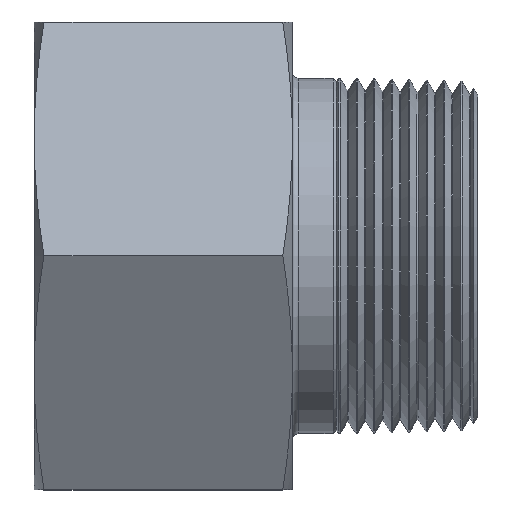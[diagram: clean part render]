
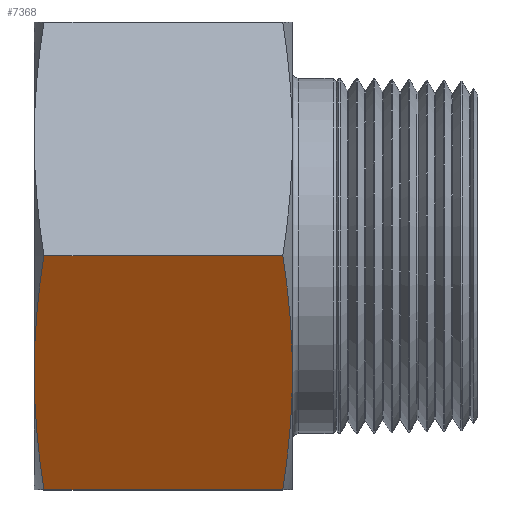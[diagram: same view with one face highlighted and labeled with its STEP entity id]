
A CAD part, top view. The second image highlights one B-rep face of the part: STEP entity #7368.
In plain terms, the highlighted planar face has unit normal (0, -0.5, 0.866).
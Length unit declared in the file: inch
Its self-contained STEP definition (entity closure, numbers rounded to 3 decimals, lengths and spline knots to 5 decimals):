
#128=B_SPLINE_CURVE_WITH_KNOTS('',3,(#9864,#9865,#9866,#9867),
 .UNSPECIFIED.,.F.,.F.,(4,4),(0.,1.),.UNSPECIFIED.);
#130=B_SPLINE_CURVE_WITH_KNOTS('',3,(#9874,#9875,#9876,#9877),
 .UNSPECIFIED.,.F.,.F.,(4,4),(0.,1.),.UNSPECIFIED.);
#131=B_SPLINE_CURVE_WITH_KNOTS('',3,(#9879,#9880,#9881,#9882),
 .UNSPECIFIED.,.F.,.F.,(4,4),(0.,1.),.UNSPECIFIED.);
#177=B_SPLINE_CURVE_WITH_KNOTS('',3,(#10194,#10195,#10196,#10197),
 .UNSPECIFIED.,.F.,.F.,(4,4),(0.,1.),.UNSPECIFIED.);
#284=B_SPLINE_CURVE_WITH_KNOTS('',3,(#10950,#10951,#10952,#10953),
 .UNSPECIFIED.,.F.,.F.,(4,4),(0.,1.),.UNSPECIFIED.);
#285=B_SPLINE_CURVE_WITH_KNOTS('',3,(#10955,#10956,#10957,#10958),
 .UNSPECIFIED.,.F.,.F.,(4,4),(0.,1.),.UNSPECIFIED.);
#286=B_SPLINE_CURVE_WITH_KNOTS('',3,(#10960,#10961,#10962,#10963),
 .UNSPECIFIED.,.F.,.F.,(4,4),(0.,1.),.UNSPECIFIED.);
#287=B_SPLINE_CURVE_WITH_KNOTS('',3,(#10965,#10966,#10967,#10968),
 .UNSPECIFIED.,.F.,.F.,(4,4),(0.,1.),.UNSPECIFIED.);
#667=LINE('',#10946,#1017);
#668=LINE('',#10970,#1018);
#1017=VECTOR('',#8721,39.37008);
#1018=VECTOR('',#8728,39.37008);
#1203=PLANE('',#7714);
#2188=ORIENTED_EDGE('',*,*,#3184,.F.);
#2189=ORIENTED_EDGE('',*,*,#3186,.T.);
#2190=ORIENTED_EDGE('',*,*,#3187,.T.);
#2191=ORIENTED_EDGE('',*,*,#3188,.T.);
#2192=ORIENTED_EDGE('',*,*,#3189,.T.);
#2193=ORIENTED_EDGE('',*,*,#3190,.T.);
#2194=ORIENTED_EDGE('',*,*,#2962,.F.);
#2195=ORIENTED_EDGE('',*,*,#2872,.F.);
#2196=ORIENTED_EDGE('',*,*,#2871,.F.);
#2197=ORIENTED_EDGE('',*,*,#2869,.F.);
#2869=EDGE_CURVE('',#3535,#3370,#128,.F.);
#2871=EDGE_CURVE('',#3370,#3529,#130,.F.);
#2872=EDGE_CURVE('',#3529,#3420,#131,.F.);
#2962=EDGE_CURVE('',#3420,#3580,#177,.F.);
#3184=EDGE_CURVE('',#3693,#3535,#667,.T.);
#3186=EDGE_CURVE('',#3693,#3694,#284,.T.);
#3187=EDGE_CURVE('',#3694,#3695,#285,.T.);
#3188=EDGE_CURVE('',#3695,#3696,#286,.T.);
#3189=EDGE_CURVE('',#3696,#3697,#287,.T.);
#3190=EDGE_CURVE('',#3697,#3580,#668,.T.);
#3370=VERTEX_POINT('',#9314);
#3420=VERTEX_POINT('',#9458);
#3529=VERTEX_POINT('',#9787);
#3535=VERTEX_POINT('',#9868);
#3580=VERTEX_POINT('',#10193);
#3693=VERTEX_POINT('',#10945);
#3694=VERTEX_POINT('',#10949);
#3695=VERTEX_POINT('',#10959);
#3696=VERTEX_POINT('',#10964);
#3697=VERTEX_POINT('',#10969);
#4134=EDGE_LOOP('',(#2188,#2189,#2190,#2191,#2192,#2193,#2194,#2195,#2196,
#2197));
#4569=FACE_BOUND('',#4134,.T.);
#7368=ADVANCED_FACE('',(#4569),#1203,.F.);
#7714=AXIS2_PLACEMENT_3D('',#10954,#8726,#8727);
#8721=DIRECTION('',(1.,0.,0.));
#8726=DIRECTION('',(0.,0.5,-0.866));
#8727=DIRECTION('',(0.,-0.866,-0.5));
#8728=DIRECTION('',(1.,0.,0.));
#9314=CARTESIAN_POINT('',(1.38066,-0.57616,1.11073));
#9458=CARTESIAN_POINT('',(1.38066,-0.67384,1.05433));
#9787=CARTESIAN_POINT('',(1.381,-0.625,1.08253));
#9864=CARTESIAN_POINT('',(1.38066,-0.57616,1.11073));
#9865=CARTESIAN_POINT('',(1.37817,-0.3978,1.21371));
#9866=CARTESIAN_POINT('',(1.36101,-0.20574,1.32459));
#9867=CARTESIAN_POINT('',(1.32919,0.,1.44338));
#9868=CARTESIAN_POINT('',(1.32919,0.,1.44338));
#9874=CARTESIAN_POINT('',(1.381,-0.625,1.08253));
#9875=CARTESIAN_POINT('',(1.381,-0.60873,1.09193));
#9876=CARTESIAN_POINT('',(1.38089,-0.59245,1.10133));
#9877=CARTESIAN_POINT('',(1.38066,-0.57616,1.11073));
#9879=CARTESIAN_POINT('',(1.38066,-0.67384,1.05433));
#9880=CARTESIAN_POINT('',(1.38089,-0.65755,1.06374));
#9881=CARTESIAN_POINT('',(1.381,-0.64127,1.07314));
#9882=CARTESIAN_POINT('',(1.381,-0.625,1.08253));
#10193=CARTESIAN_POINT('',(1.32919,-1.25,0.72169));
#10194=CARTESIAN_POINT('',(1.32919,-1.25,0.72169));
#10195=CARTESIAN_POINT('',(1.36101,-1.04426,0.84047));
#10196=CARTESIAN_POINT('',(1.37817,-0.8522,0.95136));
#10197=CARTESIAN_POINT('',(1.38066,-0.67384,1.05433));
#10945=CARTESIAN_POINT('',(0.05181,0.,1.44338));
#10946=CARTESIAN_POINT('',(-1.838,0.,1.44338));
#10949=CARTESIAN_POINT('',(0.00034,-0.57616,1.11073));
#10950=CARTESIAN_POINT('',(0.05181,0.,1.44338));
#10951=CARTESIAN_POINT('',(0.01999,-0.20574,1.32459));
#10952=CARTESIAN_POINT('',(0.00283,-0.3978,1.21371));
#10953=CARTESIAN_POINT('',(0.00034,-0.57616,1.11073));
#10954=CARTESIAN_POINT('',(-1.838,-1.25,0.72169));
#10955=CARTESIAN_POINT('',(0.00034,-0.57616,1.11073));
#10956=CARTESIAN_POINT('',(0.00011,-0.59245,1.10133));
#10957=CARTESIAN_POINT('',(0.,-0.60873,1.09193));
#10958=CARTESIAN_POINT('',(0.,-0.625,1.08253));
#10959=CARTESIAN_POINT('',(0.,-0.625,1.08253));
#10960=CARTESIAN_POINT('',(0.,-0.625,1.08253));
#10961=CARTESIAN_POINT('',(0.,-0.64127,1.07314));
#10962=CARTESIAN_POINT('',(0.00011,-0.65755,1.06374));
#10963=CARTESIAN_POINT('',(0.00034,-0.67384,1.05433));
#10964=CARTESIAN_POINT('',(0.00034,-0.67384,1.05433));
#10965=CARTESIAN_POINT('',(0.00034,-0.67384,1.05433));
#10966=CARTESIAN_POINT('',(0.00283,-0.8522,0.95136));
#10967=CARTESIAN_POINT('',(0.01999,-1.04426,0.84047));
#10968=CARTESIAN_POINT('',(0.05181,-1.25,0.72169));
#10969=CARTESIAN_POINT('',(0.05181,-1.25,0.72169));
#10970=CARTESIAN_POINT('',(-1.838,-1.25,0.72169));
